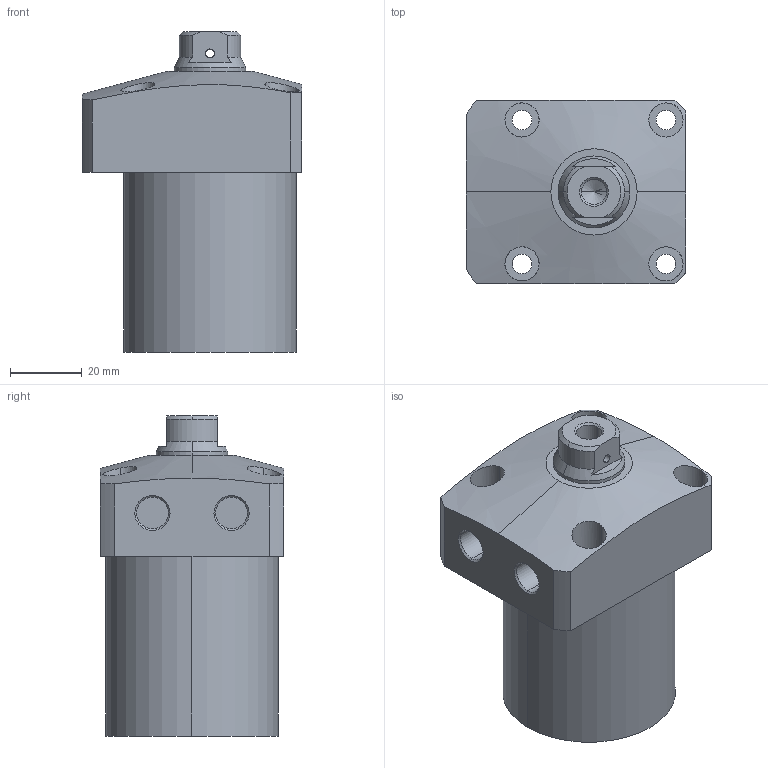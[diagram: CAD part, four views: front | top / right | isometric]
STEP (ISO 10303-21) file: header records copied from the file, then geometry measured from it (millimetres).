
FILE_DESCRIPTION (( 'STEP AP203' ), '1' );
FILE_NAME ('CLL-0480-CB-40.STEP', '2017-05-09T03:10:55', ( '' ), ( '' ), 'SwSTEP 2.0', 'SolidWorks 2015', '' );
FILE_SCHEMA (( 'CONFIG_CONTROL_DESIGN' ));
Length unit declared in the file: millimetre
Products named in the file (1): CLL-0480-CB-40
Bounding box: 61 x 51 x 89 mm (x, y, z)
Volume: 165047.7 mm3; surface area: 22141.6 mm2
Topology: 1 solids, 1 shells, 76 faces, 181 edges, 116 vertices
Faces by surface type: cylinder 39, plane 22, cone 15
Entity records: 2695 total; most frequent: CARTESIAN_POINT 818, DIRECTION 386, ORIENTED_EDGE 358, EDGE_CURVE 179, AXIS2_PLACEMENT_3D 158, VERTEX_POINT 116, EDGE_LOOP 99, CIRCLE 81
